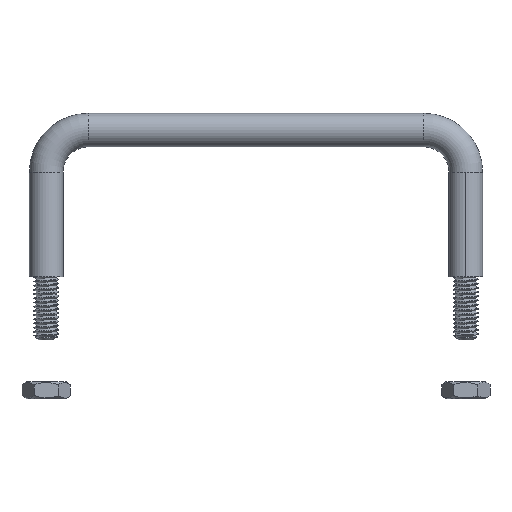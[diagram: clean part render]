
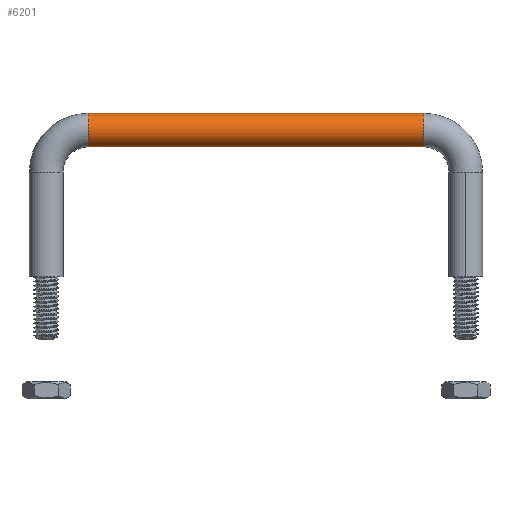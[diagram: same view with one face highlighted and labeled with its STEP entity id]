
A CAD part, top view. The second image highlights one B-rep face of the part: STEP entity #6201.
In plain terms, the highlighted cylindrical face has radius 4 mm (diameter 8 mm), a partial arc.
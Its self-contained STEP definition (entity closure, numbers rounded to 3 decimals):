
#334 = ORIENTED_EDGE ( 'NONE', *, *, #2675, .F. ) ;
#495 = AXIS2_PLACEMENT_3D ( 'NONE', #2712, #2094, #6998 ) ;
#803 = ORIENTED_EDGE ( 'NONE', *, *, #3208, .T. ) ;
#965 = CARTESIAN_POINT ( 'NONE',  ( 40., -4., 0. ) ) ;
#1423 = ORIENTED_EDGE ( 'NONE', *, *, #2655, .F. ) ;
#1433 = ORIENTED_EDGE ( 'NONE', *, *, #2656, .T. ) ;
#1557 = VERTEX_POINT ( 'NONE', #965 ) ;
#1973 = CARTESIAN_POINT ( 'NONE',  ( 40., 4., 0. ) ) ;
#2094 = DIRECTION ( 'NONE',  ( 1., 0., 0. ) ) ;
#2503 = VERTEX_POINT ( 'NONE', #1973 ) ;
#2655 = EDGE_CURVE ( 'NONE', #4072, #2503, #3474, .T. ) ;
#2656 = EDGE_CURVE ( 'NONE', #1557, #2503, #3097, .T. ) ;
#2675 = EDGE_CURVE ( 'NONE', #5280, #4072, #3157, .T. ) ;
#2712 = CARTESIAN_POINT ( 'NONE',  ( -40., 0., 0. ) ) ;
#2885 = FACE_OUTER_BOUND ( 'NONE', #7072, .T. ) ;
#3060 = VECTOR ( 'NONE', #3743, 1000. ) ;
#3069 = CYLINDRICAL_SURFACE ( 'NONE', #495, 4. ) ;
#3097 = CIRCLE ( 'NONE', #6446, 4. ) ;
#3157 = CIRCLE ( 'NONE', #6436, 4. ) ;
#3208 = EDGE_CURVE ( 'NONE', #5280, #1557, #5496, .T. ) ;
#3474 = LINE ( 'NONE', #3826, #3060 ) ;
#3609 = DIRECTION ( 'NONE',  ( 0., -1., 0. ) ) ;
#3613 = DIRECTION ( 'NONE',  ( -1., 0., 0. ) ) ;
#3622 = CARTESIAN_POINT ( 'NONE',  ( -40., 0., 0. ) ) ;
#3659 = DIRECTION ( 'NONE',  ( 0., -1., 0. ) ) ;
#3669 = DIRECTION ( 'NONE',  ( -1., 0., 0. ) ) ;
#3674 = CARTESIAN_POINT ( 'NONE',  ( 40., 0., 0. ) ) ;
#3743 = DIRECTION ( 'NONE',  ( 1., 0., 0. ) ) ;
#3826 = CARTESIAN_POINT ( 'NONE',  ( -40., 4., 0. ) ) ;
#4072 = VERTEX_POINT ( 'NONE', #4227 ) ;
#4227 = CARTESIAN_POINT ( 'NONE',  ( -40., 4., 0. ) ) ;
#5280 = VERTEX_POINT ( 'NONE', #5778 ) ;
#5496 = LINE ( 'NONE', #6196, #5582 ) ;
#5582 = VECTOR ( 'NONE', #5659, 1000. ) ;
#5659 = DIRECTION ( 'NONE',  ( 1., 0., 0. ) ) ;
#5778 = CARTESIAN_POINT ( 'NONE',  ( -40., -4., 0. ) ) ;
#6196 = CARTESIAN_POINT ( 'NONE',  ( -40., -4., 0. ) ) ;
#6201 = ADVANCED_FACE ( 'NONE', ( #2885 ), #3069, .T. ) ;
#6436 = AXIS2_PLACEMENT_3D ( 'NONE', #3622, #3613, #3609 ) ;
#6446 = AXIS2_PLACEMENT_3D ( 'NONE', #3674, #3669, #3659 ) ;
#6998 = DIRECTION ( 'NONE',  ( 0., 1., 0. ) ) ;
#7072 = EDGE_LOOP ( 'NONE', ( #334, #803, #1433, #1423 ) ) ;
